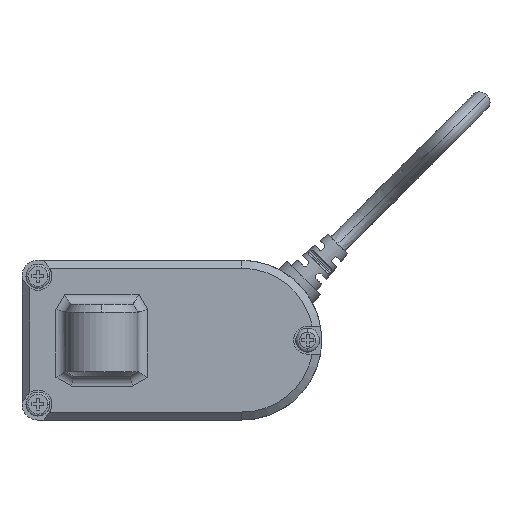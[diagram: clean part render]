
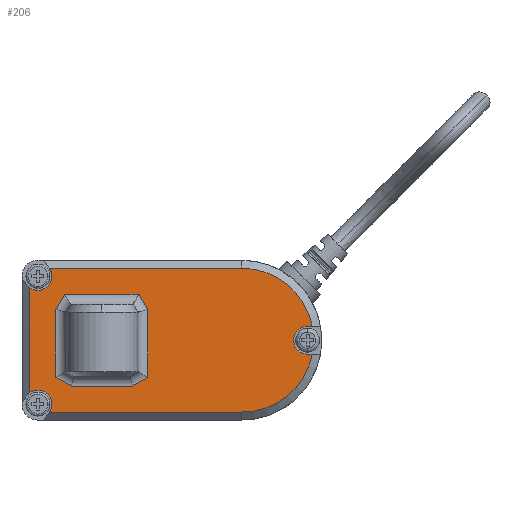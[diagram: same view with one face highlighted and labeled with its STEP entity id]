
A CAD part, left-side view. The second image highlights one B-rep face of the part: STEP entity #206.
In plain terms, the highlighted planar face has unit normal (-1, 0, 0).
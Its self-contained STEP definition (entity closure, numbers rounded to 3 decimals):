
#206=ADVANCED_FACE('',(#711,#712),#713,.F.);
#711=FACE_OUTER_BOUND('',#1938,.T.);
#712=FACE_BOUND('',#1939,.T.);
#713=PLANE('',#1940);
#1938=EDGE_LOOP('',(#4220,#4221,#4222,#4223,#4224,#4225,#4226,#4227,#4228,#4229,#4230,#4231));
#1939=EDGE_LOOP('',(#4232,#4233,#4234,#4235,#4236,#4237,#4238,#4239));
#1940=AXIS2_PLACEMENT_3D('',#4240,#4241,#4242);
#4220=ORIENTED_EDGE('',*,*,#6537,.F.);
#4221=ORIENTED_EDGE('',*,*,#6563,.F.);
#4222=ORIENTED_EDGE('',*,*,#6558,.F.);
#4223=ORIENTED_EDGE('',*,*,#6214,.F.);
#4224=ORIENTED_EDGE('',*,*,#6564,.F.);
#4225=ORIENTED_EDGE('',*,*,#6565,.F.);
#4226=ORIENTED_EDGE('',*,*,#6553,.F.);
#4227=ORIENTED_EDGE('',*,*,#6548,.F.);
#4228=ORIENTED_EDGE('',*,*,#6546,.F.);
#4229=ORIENTED_EDGE('',*,*,#6566,.F.);
#4230=ORIENTED_EDGE('',*,*,#6567,.F.);
#4231=ORIENTED_EDGE('',*,*,#6319,.F.);
#4232=ORIENTED_EDGE('',*,*,#6505,.F.);
#4233=ORIENTED_EDGE('',*,*,#6504,.F.);
#4234=ORIENTED_EDGE('',*,*,#6502,.F.);
#4235=ORIENTED_EDGE('',*,*,#6500,.F.);
#4236=ORIENTED_EDGE('',*,*,#6498,.F.);
#4237=ORIENTED_EDGE('',*,*,#6496,.F.);
#4238=ORIENTED_EDGE('',*,*,#6493,.F.);
#4239=ORIENTED_EDGE('',*,*,#6507,.F.);
#4240=CARTESIAN_POINT('',(-17.0,20.0,0.0));
#4241=DIRECTION('',(1.0,0.,0.0));
#4242=DIRECTION('',(0.,-1.0,0.0));
#6214=EDGE_CURVE('',#7266,#7260,#7268,.T.);
#6319=EDGE_CURVE('',#7464,#7466,#7467,.T.);
#6493=EDGE_CURVE('',#7749,#7751,#7752,.T.);
#6496=EDGE_CURVE('',#7751,#7754,#7756,.T.);
#6498=EDGE_CURVE('',#7754,#7757,#7759,.T.);
#6500=EDGE_CURVE('',#7757,#7760,#7762,.T.);
#6502=EDGE_CURVE('',#7760,#7763,#7765,.T.);
#6504=EDGE_CURVE('',#7763,#7766,#7768,.T.);
#6505=EDGE_CURVE('',#7766,#7769,#7770,.T.);
#6507=EDGE_CURVE('',#7769,#7749,#7772,.T.);
#6537=EDGE_CURVE('',#7815,#7464,#7817,.T.);
#6546=EDGE_CURVE('',#7831,#7824,#7833,.T.);
#6548=EDGE_CURVE('',#7824,#7836,#7837,.T.);
#6553=EDGE_CURVE('',#7836,#7840,#7845,.T.);
#6558=EDGE_CURVE('',#7260,#7852,#7853,.T.);
#6563=EDGE_CURVE('',#7852,#7815,#7860,.T.);
#6564=EDGE_CURVE('',#7861,#7266,#7862,.T.);
#6565=EDGE_CURVE('',#7840,#7861,#7863,.T.);
#6566=EDGE_CURVE('',#7864,#7831,#7865,.T.);
#6567=EDGE_CURVE('',#7466,#7864,#7866,.T.);
#7260=VERTEX_POINT('',#8928);
#7266=VERTEX_POINT('',#8936);
#7268=CIRCLE('',#8948,3.5);
#7464=VERTEX_POINT('',#9473);
#7466=VERTEX_POINT('',#9476);
#7467=CIRCLE('',#9477,3.5);
#7749=VERTEX_POINT('',#10015);
#7751=VERTEX_POINT('',#10027);
#7752=LINE('',#10028,#10029);
#7754=VERTEX_POINT('',#10041);
#7756=LINE('',#10053,#10054);
#7757=VERTEX_POINT('',#10055);
#7759=LINE('',#10067,#10068);
#7760=VERTEX_POINT('',#10069);
#7762=LINE('',#10081,#10082);
#7763=VERTEX_POINT('',#10083);
#7765=LINE('',#10095,#10096);
#7766=VERTEX_POINT('',#10097);
#7768=LINE('',#10109,#10110);
#7769=VERTEX_POINT('',#10111);
#7770=LINE('',#10112,#10113);
#7772=LINE('',#10125,#10126);
#7815=VERTEX_POINT('',#10354);
#7817=CIRCLE('',#10366,3.5);
#7824=VERTEX_POINT('',#10376);
#7831=VERTEX_POINT('',#10386);
#7833=LINE('',#10391,#10392);
#7836=VERTEX_POINT('',#10395);
#7837=CIRCLE('',#10396,3.5);
#7840=VERTEX_POINT('',#10400);
#7845=LINE('',#10410,#10411);
#7852=VERTEX_POINT('',#10421);
#7853=CIRCLE('',#10422,3.5);
#7860=LINE('',#10440,#10441);
#7861=VERTEX_POINT('',#10442);
#7862=LINE('',#10443,#10444);
#7863=CIRCLE('',#10445,18.);
#7864=VERTEX_POINT('',#10446);
#7865=CIRCLE('',#10447,18.);
#7866=LINE('',#10448,#10449);
#8928=CARTESIAN_POINT('',(-17.0,16.0,-12.5));
#8936=CARTESIAN_POINT('',(-17.,13.128,-18.));
#8948=AXIS2_PLACEMENT_3D('',#13012,#13013,#13014);
#9473=CARTESIAN_POINT('',(-17.0,16.0,12.5));
#9476=CARTESIAN_POINT('',(-17.0,13.128,18.0));
#9477=AXIS2_PLACEMENT_3D('',#13168,#13169,#13170);
#10015=CARTESIAN_POINT('',(-17.0,-9.289,11.5));
#10027=CARTESIAN_POINT('',(-17.0,9.289,11.5));
#10028=CARTESIAN_POINT('',(-17.0,20.0,11.5));
#10029=VECTOR('',#13347,1000.0);
#10041=CARTESIAN_POINT('',(-17.0,11.5,7.67));
#10053=CARTESIAN_POINT('',(-17.0,9.289,11.5));
#10054=VECTOR('',#13348,1000.0);
#10055=CARTESIAN_POINT('',(-17.0,11.5,-9.289));
#10067=CARTESIAN_POINT('',(-17.0,11.5,0.0));
#10068=VECTOR('',#13349,1000.0);
#10069=CARTESIAN_POINT('',(-17.0,7.67,-11.5));
#10081=CARTESIAN_POINT('',(-17.0,11.5,-9.289));
#10082=VECTOR('',#13350,1000.0);
#10083=CARTESIAN_POINT('',(-17.0,-7.67,-11.5));
#10095=CARTESIAN_POINT('',(-17.0,20.0,-11.5));
#10096=VECTOR('',#13351,1000.0);
#10097=CARTESIAN_POINT('',(-17.0,-11.5,-9.289));
#10109=CARTESIAN_POINT('',(-17.0,-7.67,-11.5));
#10110=VECTOR('',#13352,1000.0);
#10111=CARTESIAN_POINT('',(-17.0,-11.5,7.67));
#10112=CARTESIAN_POINT('',(-17.0,-11.5,0.0));
#10113=VECTOR('',#13353,1000.0);
#10125=CARTESIAN_POINT('',(-17.0,-11.5,7.67));
#10126=VECTOR('',#13354,1000.0);
#10354=CARTESIAN_POINT('',(-17.0,18.0,13.128));
#10366=AXIS2_PLACEMENT_3D('',#13369,#13370,#13371);
#10376=CARTESIAN_POINT('',(-17.,-51.47,3.5));
#10386=CARTESIAN_POINT('',(-17.,-52.656,3.5));
#10391=CARTESIAN_POINT('',(-17.0,20.0,3.5));
#10392=VECTOR('',#13381,1000.0);
#10395=CARTESIAN_POINT('',(-17.,-51.47,-3.5));
#10396=AXIS2_PLACEMENT_3D('',#13385,#13386,#13387);
#10400=CARTESIAN_POINT('',(-17.,-52.656,-3.5));
#10410=CARTESIAN_POINT('',(-17.0,20.0,-3.5));
#10411=VECTOR('',#13391,1000.0);
#10421=CARTESIAN_POINT('',(-17.0,18.0,-13.128));
#10422=AXIS2_PLACEMENT_3D('',#13398,#13399,#13400);
#10440=CARTESIAN_POINT('',(-17.0,18.0,0.0));
#10441=VECTOR('',#13408,1000.0);
#10442=CARTESIAN_POINT('',(-17.,-35.,-18.));
#10443=CARTESIAN_POINT('',(-17.,-9.5,-18.));
#10444=VECTOR('',#13409,1000.0);
#10445=AXIS2_PLACEMENT_3D('',#13410,#13411,#13412);
#10446=CARTESIAN_POINT('',(-17.,-35.0,18.));
#10447=AXIS2_PLACEMENT_3D('',#13413,#13414,#13415);
#10448=CARTESIAN_POINT('',(-17.0,-9.5,18.0));
#10449=VECTOR('',#13416,1000.0);
#13012=CARTESIAN_POINT('',(-17.0,16.0,-16.0));
#13013=DIRECTION('',(-1.0,0.,-0.0));
#13014=DIRECTION('',(0.0,0.0,-1.0));
#13168=CARTESIAN_POINT('',(-17.0,16.0,16.0));
#13169=DIRECTION('',(-1.0,0.,-0.0));
#13170=DIRECTION('',(0.0,0.0,-1.0));
#13347=DIRECTION('',(0.,1.0,0.0));
#13348=DIRECTION('',(0.,0.5,-0.866));
#13349=DIRECTION('',(0.0,0.0,-1.0));
#13350=DIRECTION('',(0.,-0.866,-0.5));
#13351=DIRECTION('',(0.,-1.0,0.0));
#13352=DIRECTION('',(0.,-0.866,0.5));
#13353=DIRECTION('',(0.0,0.0,1.0));
#13354=DIRECTION('',(0.,0.5,0.866));
#13369=CARTESIAN_POINT('',(-17.0,16.0,16.0));
#13370=DIRECTION('',(-1.0,0.,-0.0));
#13371=DIRECTION('',(0.0,0.0,-1.0));
#13381=DIRECTION('',(0.,1.0,0.0));
#13385=CARTESIAN_POINT('',(-17.,-51.47,0.0));
#13386=DIRECTION('',(-1.0,0.,-0.0));
#13387=DIRECTION('',(0.0,0.0,-1.0));
#13391=DIRECTION('',(0.,-1.0,0.0));
#13398=CARTESIAN_POINT('',(-17.0,16.0,-16.0));
#13399=DIRECTION('',(-1.0,0.,-0.0));
#13400=DIRECTION('',(0.0,0.0,-1.0));
#13408=DIRECTION('',(0.0,0.0,1.0));
#13409=DIRECTION('',(0.,1.0,0.0));
#13410=CARTESIAN_POINT('',(-17.,-35.0,0.0));
#13411=DIRECTION('',(1.0,0.,0.0));
#13412=DIRECTION('',(0.,1.0,0.0));
#13413=CARTESIAN_POINT('',(-17.,-35.0,0.));
#13414=DIRECTION('',(1.0,0.,0.));
#13415=DIRECTION('',(0.,0.,1.0));
#13416=DIRECTION('',(0.,-1.0,0.0));
